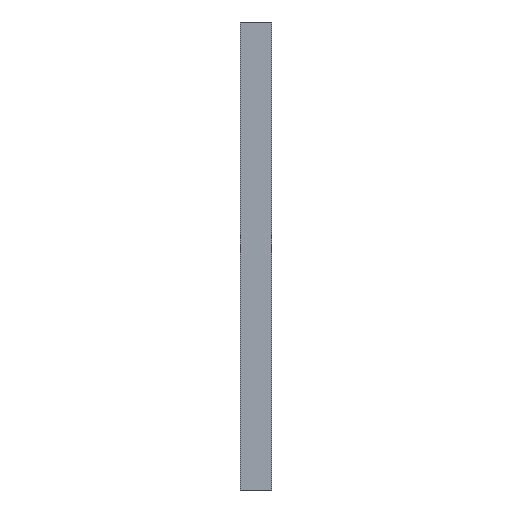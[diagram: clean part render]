
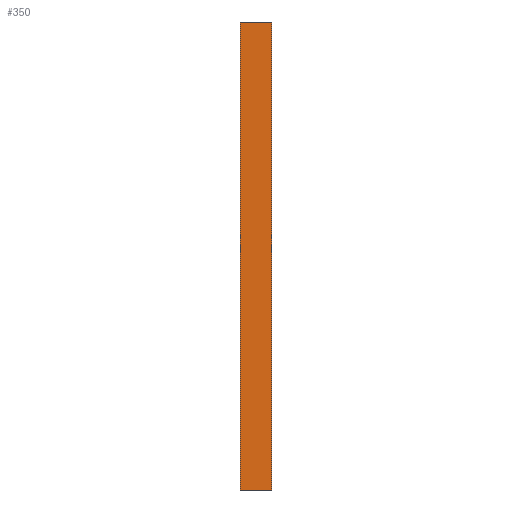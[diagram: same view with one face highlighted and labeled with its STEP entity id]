
A CAD part, front view. The second image highlights one B-rep face of the part: STEP entity #350.
In plain terms, the highlighted planar face has unit normal (0, -1, 0).
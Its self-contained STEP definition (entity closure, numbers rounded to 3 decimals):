
#39 = VERTEX_POINT ( 'NONE', #1419 ) ;
#90 = VECTOR ( 'NONE', #2272, 1000. ) ;
#159 = ORIENTED_EDGE ( 'NONE', *, *, #862, .F. ) ;
#162 = CARTESIAN_POINT ( 'NONE',  ( 100., 0., 1500. ) ) ;
#286 = VERTEX_POINT ( 'NONE', #162 ) ;
#350 = ADVANCED_FACE ( 'NONE', ( #1341 ), #2110, .F. ) ;
#382 = CARTESIAN_POINT ( 'NONE',  ( -100., 0., 1500. ) ) ;
#473 = EDGE_LOOP ( 'NONE', ( #575, #159, #1392, #2438 ) ) ;
#527 = VECTOR ( 'NONE', #1581, 1000. ) ;
#575 = ORIENTED_EDGE ( 'NONE', *, *, #2124, .T. ) ;
#612 = LINE ( 'NONE', #1182, #938 ) ;
#826 = CARTESIAN_POINT ( 'NONE',  ( -100., 0., -1500. ) ) ;
#862 = EDGE_CURVE ( 'NONE', #286, #39, #1829, .T. ) ;
#938 = VECTOR ( 'NONE', #1948, 1000. ) ;
#1006 = CARTESIAN_POINT ( 'NONE',  ( 100., 0., 1500. ) ) ;
#1008 = EDGE_CURVE ( 'NONE', #1787, #286, #2462, .T. ) ;
#1182 = CARTESIAN_POINT ( 'NONE',  ( -100., 0., -1500. ) ) ;
#1257 = DIRECTION ( 'NONE',  ( 0., 0., -1. ) ) ;
#1341 = FACE_OUTER_BOUND ( 'NONE', #473, .T. ) ;
#1392 = ORIENTED_EDGE ( 'NONE', *, *, #1008, .F. ) ;
#1407 = EDGE_CURVE ( 'NONE', #1787, #2423, #2178, .T. ) ;
#1419 = CARTESIAN_POINT ( 'NONE',  ( 100., 0., -1500. ) ) ;
#1581 = DIRECTION ( 'NONE',  ( 0., 0., -1. ) ) ;
#1634 = CARTESIAN_POINT ( 'NONE',  ( -100., 0., 1500. ) ) ;
#1661 = CARTESIAN_POINT ( 'NONE',  ( -100., 0., 1500. ) ) ;
#1728 = DIRECTION ( 'NONE',  ( 0., 1., 0. ) ) ;
#1781 = VECTOR ( 'NONE', #1257, 1000. ) ;
#1787 = VERTEX_POINT ( 'NONE', #1661 ) ;
#1829 = LINE ( 'NONE', #1006, #527 ) ;
#1916 = DIRECTION ( 'NONE',  ( -1., 0., 0. ) ) ;
#1948 = DIRECTION ( 'NONE',  ( 1., 0., 0. ) ) ;
#2110 = PLANE ( 'NONE',  #2430 ) ;
#2124 = EDGE_CURVE ( 'NONE', #2423, #39, #612, .T. ) ;
#2178 = LINE ( 'NONE', #1634, #1781 ) ;
#2237 = CARTESIAN_POINT ( 'NONE',  ( -100., 0., 1500. ) ) ;
#2272 = DIRECTION ( 'NONE',  ( 1., 0., 0. ) ) ;
#2423 = VERTEX_POINT ( 'NONE', #826 ) ;
#2430 = AXIS2_PLACEMENT_3D ( 'NONE', #382, #1728, #1916 ) ;
#2438 = ORIENTED_EDGE ( 'NONE', *, *, #1407, .T. ) ;
#2462 = LINE ( 'NONE', #2237, #90 ) ;
